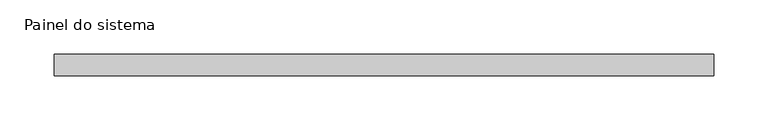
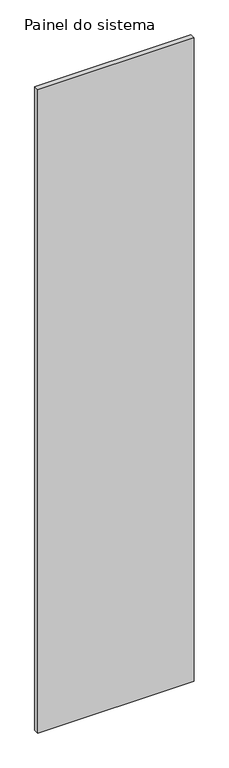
"""IFC4 building model written with IfcOpenShell, lengths in millimetres: plate geometry, Painel do sistema : Envidraçado."""

from ifc_helpers import new_model, si_unit, origin, origin_with_axes, place, context, project, spatial, polyline, outline, extrude, source, transform, mapped, element, save


def painel_do_sistema_2e0f2578(model_context):
    return source(origin(), model_context, "Body", "SweptSolid", [
        extrude(outline(polyline([(303.75, -10.0), (-303.75, -10.0), (-303.75, 10.0), (303.75, 10.0), (303.75, -10.0)])), origin_with_axes(), (0.0, 0.0, 1.0), 2640.0),
    ])


if __name__ == "__main__":
    model = new_model("IFC4")
    model_context = context("Model", 3, world=origin())
    ifc_project = project(units=[si_unit("LENGTHUNIT", "METRE", prefix="MILLI")], contexts=[model_context])
    site = spatial("IfcSite", under=ifc_project)
    building = spatial("IfcBuilding", under=site)
    placement = place(None, origin())
    painel_do_sistema_shape = painel_do_sistema_2e0f2578(model_context)
    element("IfcPlate", 1, ObjectType="Painel do sistema : Envidraçado", at=placement, inside=building, context=model_context, shape_type="MappedRepresentation", body=[
        mapped(painel_do_sistema_shape, transform((0.0, 0.0, 0.0), x_axis=(1.0, 0.0, 0.0), y_axis=(0.0, 1.0, 0.0), z_axis=(0.0, 0.0, 1.0))),
    ])
    save(model, "model.ifc")
